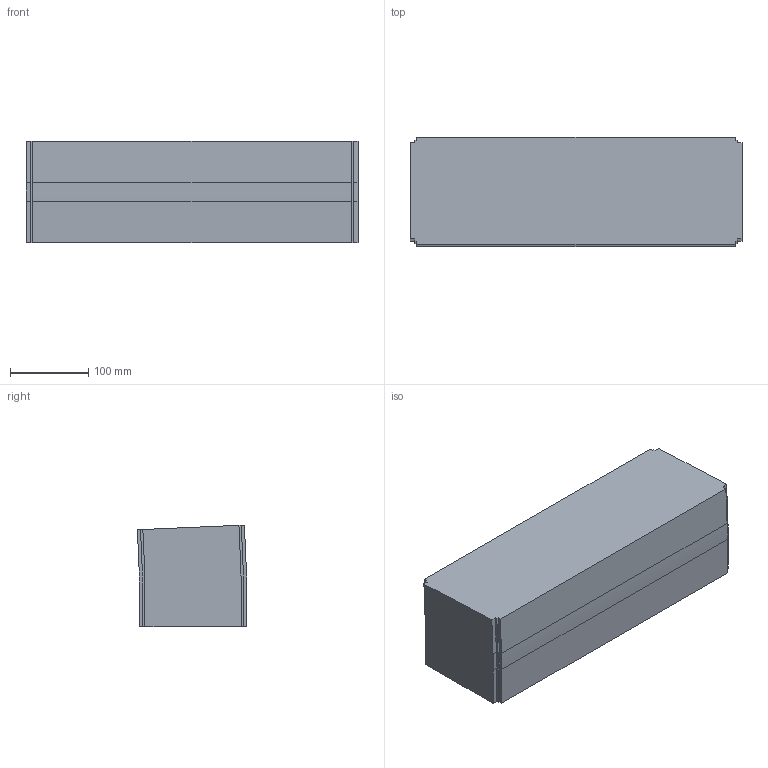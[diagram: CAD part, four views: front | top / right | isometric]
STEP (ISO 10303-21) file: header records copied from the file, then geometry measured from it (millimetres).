
FILE_DESCRIPTION (( 'STEP AP214' ), '1' );
FILE_NAME ('FS-MTC2-150-INOX verticaalbocht.420 2,5°.STEP', '2017-02-08T12:41:45', ( '' ), ( '' ), 'SwSTEP 2.0', 'SolidWorks 2016', '' );
FILE_SCHEMA (( 'AUTOMOTIVE_DESIGN' ));
Length unit declared in the file: millimetre
Products named in the file (1): FS-MTC2-150-INOX verticaalbocht.420 2,5°
Bounding box: 423 x 139.2 x 129.74 mm (x, y, z)
Volume: 7296355.9 mm3; surface area: 256977.2 mm2
Topology: 1 solids, 1 shells, 42 faces, 120 edges, 80 vertices
Faces by surface type: plane 32, cylinder 10
Entity records: 1398 total; most frequent: CARTESIAN_POINT 243, ORIENTED_EDGE 240, DIRECTION 226, EDGE_CURVE 120, LINE 100, VECTOR 100, VERTEX_POINT 80, AXIS2_PLACEMENT_3D 63
